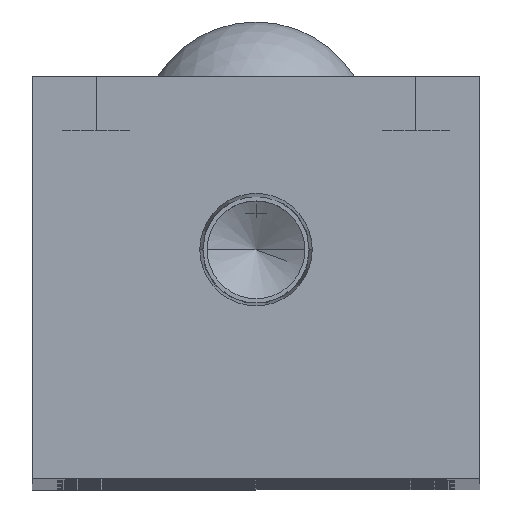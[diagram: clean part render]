
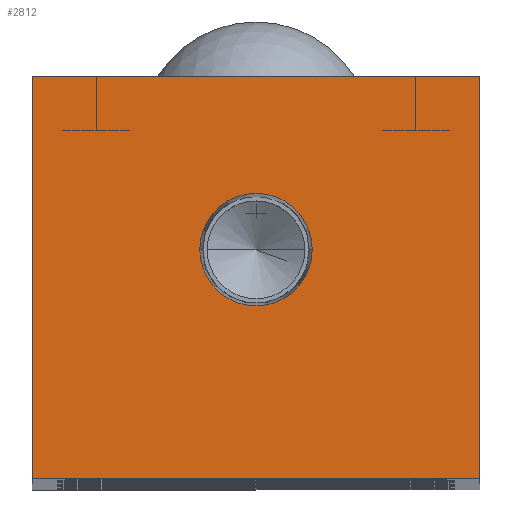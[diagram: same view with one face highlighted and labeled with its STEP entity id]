
A CAD part, top view. The second image highlights one B-rep face of the part: STEP entity #2812.
In plain terms, the highlighted planar face has unit normal (0, 0, 1).
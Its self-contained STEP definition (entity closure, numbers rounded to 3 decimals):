
#10 = DIRECTION ( 'NONE',  ( -1., 0., 0. ) ) ;
#40 = DIRECTION ( 'NONE',  ( 0., 0., -1. ) ) ;
#151 = EDGE_LOOP ( 'NONE', ( #5916, #18057 ) ) ;
#676 = EDGE_CURVE ( 'NONE', #12052, #1175, #10902, .T. ) ;
#734 = CARTESIAN_POINT ( 'NONE',  ( 6.154, 25., 0. ) ) ;
#735 = CARTESIAN_POINT ( 'NONE',  ( 0., 25., 0. ) ) ;
#935 = VERTEX_POINT ( 'NONE', #19039 ) ;
#1175 = VERTEX_POINT ( 'NONE', #12064 ) ;
#1488 = CARTESIAN_POINT ( 'NONE',  ( 0., 0., 0. ) ) ;
#2221 = DIRECTION ( 'NONE',  ( 1., 0., 0. ) ) ;
#2481 = VERTEX_POINT ( 'NONE', #734 ) ;
#2812 = ADVANCED_FACE ( 'NONE', ( #18492, #6968 ), #14940, .F. ) ;
#2842 = ORIENTED_EDGE ( 'NONE', *, *, #8367, .T. ) ;
#3043 = EDGE_CURVE ( 'NONE', #2481, #6752, #3258, .T. ) ;
#3258 = CIRCLE ( 'NONE', #12694, 6.154 ) ;
#3290 = VECTOR ( 'NONE', #7069, 1000. ) ;
#3931 = LINE ( 'NONE', #4425, #15433 ) ;
#4035 = DIRECTION ( 'NONE',  ( 0., -1., 0. ) ) ;
#4090 = ORIENTED_EDGE ( 'NONE', *, *, #6424, .T. ) ;
#4362 = CARTESIAN_POINT ( 'NONE',  ( -6.154, 25., 0. ) ) ;
#4425 = CARTESIAN_POINT ( 'NONE',  ( -24.5, 44., 0. ) ) ;
#4764 = CARTESIAN_POINT ( 'NONE',  ( 24.5, 0., 0. ) ) ;
#5916 = ORIENTED_EDGE ( 'NONE', *, *, #3043, .F. ) ;
#6424 = EDGE_CURVE ( 'NONE', #935, #10651, #3931, .T. ) ;
#6752 = VERTEX_POINT ( 'NONE', #4362 ) ;
#6880 = VECTOR ( 'NONE', #12244, 1000. ) ;
#6968 = FACE_OUTER_BOUND ( 'NONE', #12186, .T. ) ;
#7015 = CARTESIAN_POINT ( 'NONE',  ( 0., 25., 0. ) ) ;
#7069 = DIRECTION ( 'NONE',  ( 0., 1., 0. ) ) ;
#7235 = LINE ( 'NONE', #13046, #3290 ) ;
#7905 = AXIS2_PLACEMENT_3D ( 'NONE', #735, #11170, #2221 ) ;
#8367 = EDGE_CURVE ( 'NONE', #10651, #12052, #14548, .T. ) ;
#8510 = DIRECTION ( 'NONE',  ( 1., 0., 0. ) ) ;
#9790 = CARTESIAN_POINT ( 'NONE',  ( -24.5, 44., 0. ) ) ;
#10479 = DIRECTION ( 'NONE',  ( -1., 0., 0. ) ) ;
#10651 = VERTEX_POINT ( 'NONE', #9790 ) ;
#10902 = LINE ( 'NONE', #4764, #6880 ) ;
#11036 = VECTOR ( 'NONE', #4035, 1000. ) ;
#11170 = DIRECTION ( 'NONE',  ( 0., 0., 1. ) ) ;
#12052 = VERTEX_POINT ( 'NONE', #17626 ) ;
#12064 = CARTESIAN_POINT ( 'NONE',  ( 24.5, 0., 0. ) ) ;
#12186 = EDGE_LOOP ( 'NONE', ( #2842, #15019, #18499, #4090 ) ) ;
#12244 = DIRECTION ( 'NONE',  ( 1., 0., 0. ) ) ;
#12694 = AXIS2_PLACEMENT_3D ( 'NONE', #7015, #17533, #8510 ) ;
#13046 = CARTESIAN_POINT ( 'NONE',  ( 24.5, 44., 0. ) ) ;
#13553 = EDGE_CURVE ( 'NONE', #1175, #935, #7235, .T. ) ;
#14512 = CARTESIAN_POINT ( 'NONE',  ( -24.5, 0., 0. ) ) ;
#14548 = LINE ( 'NONE', #14512, #11036 ) ;
#14940 = PLANE ( 'NONE',  #15079 ) ;
#15019 = ORIENTED_EDGE ( 'NONE', *, *, #676, .T. ) ;
#15079 = AXIS2_PLACEMENT_3D ( 'NONE', #1488, #40, #10479 ) ;
#15433 = VECTOR ( 'NONE', #10, 1000. ) ;
#16577 = CIRCLE ( 'NONE', #7905, 6.154 ) ;
#17533 = DIRECTION ( 'NONE',  ( 0., 0., 1. ) ) ;
#17626 = CARTESIAN_POINT ( 'NONE',  ( -24.5, 0., 0. ) ) ;
#18057 = ORIENTED_EDGE ( 'NONE', *, *, #18107, .F. ) ;
#18107 = EDGE_CURVE ( 'NONE', #6752, #2481, #16577, .T. ) ;
#18492 = FACE_BOUND ( 'NONE', #151, .T. ) ;
#18499 = ORIENTED_EDGE ( 'NONE', *, *, #13553, .T. ) ;
#19039 = CARTESIAN_POINT ( 'NONE',  ( 24.5, 44., 0. ) ) ;
